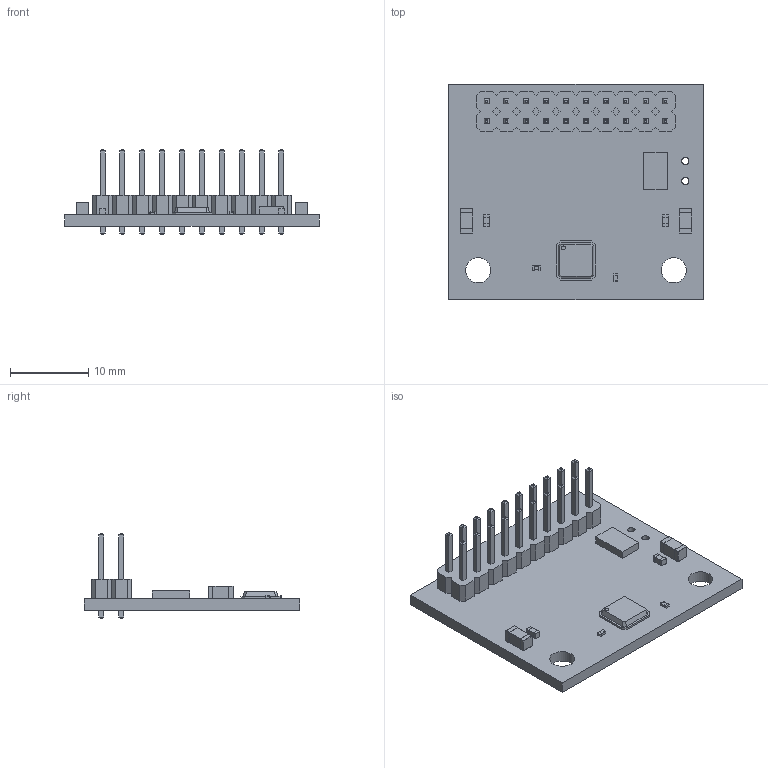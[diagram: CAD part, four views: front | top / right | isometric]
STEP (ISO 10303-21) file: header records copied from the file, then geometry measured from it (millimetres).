
FILE_DESCRIPTION(/* description */ (''),/* implementation_level */ '2;1');
FILE_NAME(/* name */ 'FH3D12_Solder-PCB_V1.0R1.brd.stp',/* time_stamp */ '2024-02-28T20:58:12+01:00',/* author */ ('tis'),/* organization */ (''),/* preprocessor_version */ 'ST-DEVELOPER v20',/* originating_system */ 'Autodesk Inventor 2024',/* authorisation */ '');
FILE_SCHEMA (('AUTOMOTIVE_DESIGN { 1 0 10303 214 3 1 1 }'));
Length unit declared in the file: millimetre
Products named in the file (8): FH3D12_Solder-PCB_V1.0R1.brd; FH3D12_Solder-PCB_V1.0R1.brd_Kontur; C0603X_INCH; C1206G_INCH; tbd; tbd_1; R0402_INCH; MA10-2
Assembly tree (10 placements, depth 2):
  FH3D12_Solder-PCB_V1.0R1.brd
    FH3D12_Solder-PCB_V1.0R1.brd_Kontur
    C0603X_INCH  x2
    C1206G_INCH  x2
    tbd
    tbd_1
    R0402_INCH  x2
    MA10-2
Bounding box: 32.5 x 27.5 x 10.8 mm (x, y, z)
Volume: 1704.9 mm3; surface area: 3094.7 mm2
Topology: 10 solids, 10 shells, 975 faces, 2265 edges, 1312 vertices
Faces by surface type: plane 742, cylinder 185, sphere 48
Full cylindrical faces by diameter (mm): 0.32 x40, 0.5 x1, 0.914 x2, 1.016 x20, 3.2 x2
Entity records: 24554 total; most frequent: CARTESIAN_POINT 4078, DIRECTION 4015, ORIENTED_EDGE 3870, EDGE_CURVE 1935, LINE 1565, VECTOR 1565, AXIS2_PLACEMENT_3D 1225, VERTEX_POINT 1142
